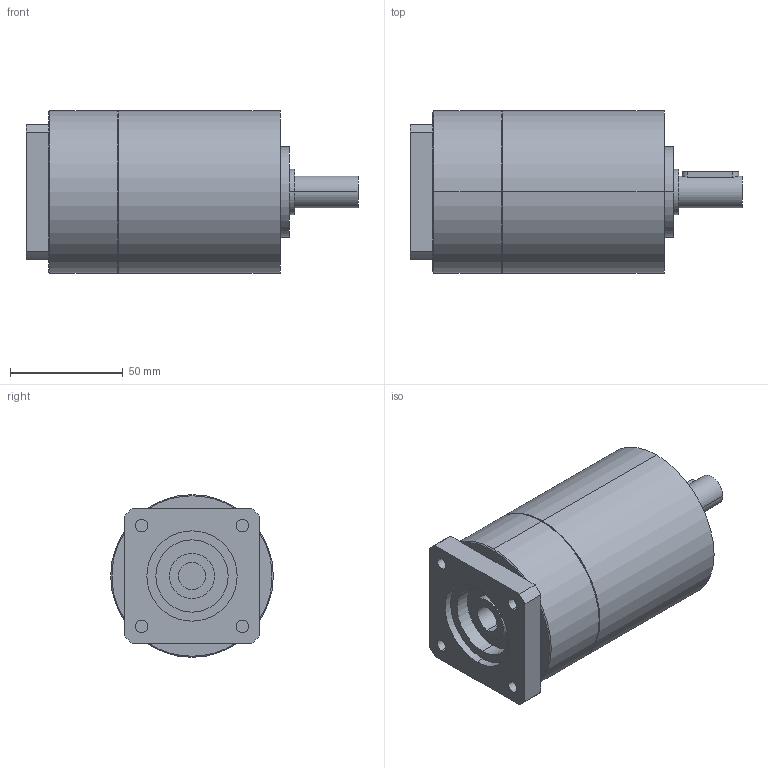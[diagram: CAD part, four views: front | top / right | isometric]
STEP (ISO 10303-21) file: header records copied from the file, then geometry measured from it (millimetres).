
FILE_DESCRIPTION(('CoCreate Modeling STEP Export'),'2;1');
FILE_NAME('GPT75_ig-9-12-16-20-25-28-35-40-50-70-100_14_B14T_12_P03.stp','2014-08-27T13:16:07',(''),(''),'CoCreate Modeling STEP processor for AP214 (Solid Model)','CoCreate Modeling 16.00C 25-Feb-2009 (C) Parametric Technology GmbH','');
FILE_SCHEMA(('AUTOMOTIVE_DESIGN { 1 0 10303 214 1 1 1 1 }'));
Length unit declared in the file: millimetre
Products named in the file (2): GPT75_ig-9-12-16-20-25-28-35-40-50-70-100_14_B14T_12_P03
Assembly tree (1 placements, depth 2):
  GPT75_ig-9-12-16-20-25-28-35-40-50-70-100_14_B14T_12_P03
    GPT75_ig-9-12-16-20-25-28-35-40-50-70-100_14_B14T_12_P03
Bounding box: 147 x 72 x 72 mm (x, y, z)
Volume: 449294.5 mm3; surface area: 40151.7 mm2
Topology: 1 solids, 1 shells, 80 faces, 182 edges, 121 vertices
Faces by surface type: cylinder 42, plane 34, cone 4
Entity records: 2269 total; most frequent: CARTESIAN_POINT 677, ORIENTED_EDGE 364, DIRECTION 268, EDGE_CURVE 182, VERTEX_POINT 121, AXIS2_PLACEMENT_3D 100, EDGE_LOOP 97, FACE_OUTER_BOUND 80
